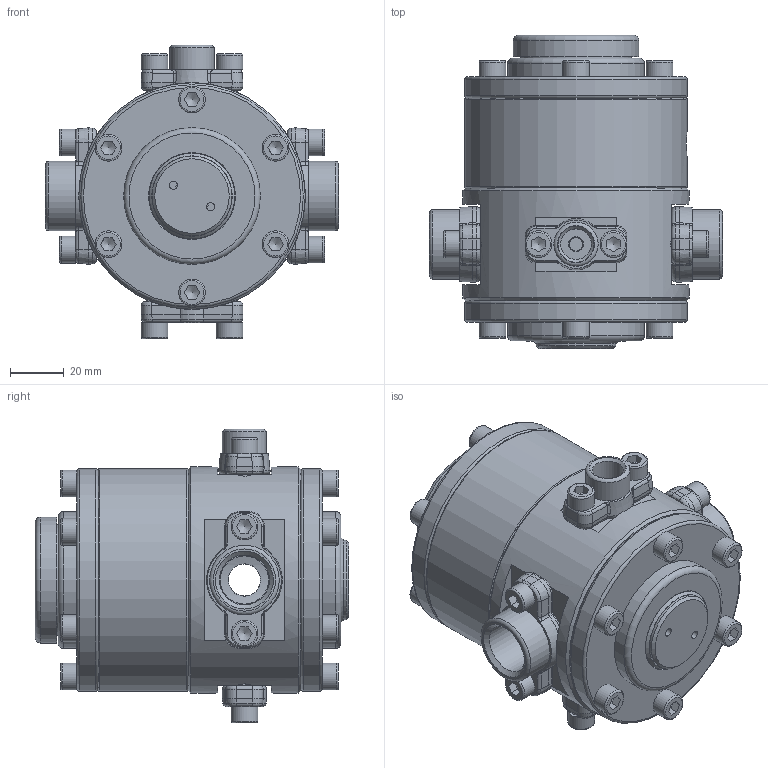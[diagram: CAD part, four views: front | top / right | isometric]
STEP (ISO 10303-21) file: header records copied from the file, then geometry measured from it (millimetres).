
FILE_DESCRIPTION(/* description */ ('Regolatore di pressione 312P2'),/* implementation_level */ '2;1');
FILE_NAME(/* name */ 'C:\Users\MLazzarato\Desktop\DISEGNI THOMAS\312P2 PISTON.stp',/* time_stamp */ '2020-11-27T09:40:39+01:00',/* author */ ('MLazzarato'),/* organization */ (''),/* preprocessor_version */ 'ST-DEVELOPER v18.1',/* originating_system */ 'Autodesk Inventor 2021',/* authorisation */ '');
FILE_SCHEMA (('AUTOMOTIVE_DESIGN { 1 0 10303 214 3 1 1 }'));
Length unit declared in the file: millimetre
Products named in the file (33): C81064; P20648; P37110; P34225; C22014; P22069; P42021; OR 08022; P41119; P37129; P37131; P37128; P25028; OR 07054; OR 16099; OR 07075; OR 07103; OR 07021; P24011; 0DC10410; P37109; P51049; OR 07075_1; P26126; P27130; OR 07103_1; OR 16092; OR 18079; 0DC10418; P43046; P43159; OR 08022_1; OR 05006
Assembly tree (53 placements, depth 3):
  C81064
    P20648
    P37110
    P34225
    C22014
      P22069
      P42021
      OR 08022
    P41119
    P37128  x2
    P37129
    P37131
    0DC10410  x14
    P25028
    OR 07054  x2
    OR 16099
    OR 07075
    OR 07103
    OR 07021  x2
    P24011
    P37109
    P51049
    OR 07075_1
    P26126
    P27130
    OR 07103_1
    OR 16092
    OR 18079
    0DC10418  x6
    P43046
    P43159
    OR 08022_1
    OR 05006
Bounding box: 109.3 x 116.9 x 109.5 mm (x, y, z)
Volume: 256134.2 mm3; surface area: 120446.2 mm2
Topology: 35 solids, 35 shells, 774 faces, 2116 edges, 1422 vertices
Faces by surface type: plane 286, cylinder 202, cone 128, torus 97, bspline 61
Full cylindrical faces by diameter (mm): 3 x2, 4.134 x1, 4.917 x20, 5 x2, 5.1 x2, 5.6 x1, 6 x22, 6.5 x26, 7.7 x2, 8.566 x2, 10 x20, 11.2 x2, 11.445 x1, 12 x1, 13.905 x1, 16.5 x1, 18 x1, 18.63 x2, 20.3 x2, 23.8 x2, 24.962 x1, 26 x2, 29.8 x1, 30.376 x1, 32 x1, 41.4 x2, 42 x1, 43.376 x1, 45 x1, 47 x1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
Entity records: 18021 total; most frequent: CARTESIAN_POINT 5378, DIRECTION 2550, ORIENTED_EDGE 2342, EDGE_CURVE 1171, AXIS2_PLACEMENT_3D 1100, VERTEX_POINT 791, CIRCLE 602, EDGE_LOOP 540
